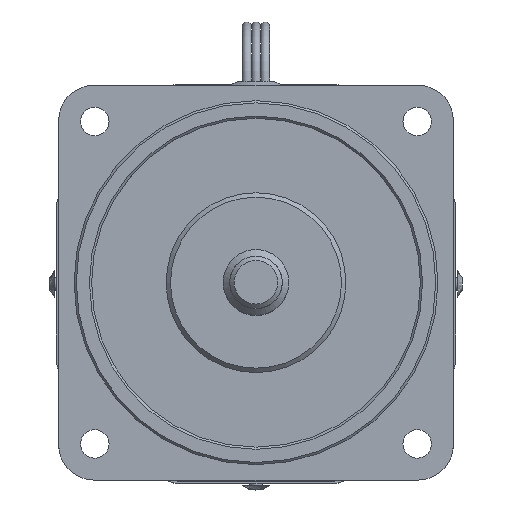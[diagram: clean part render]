
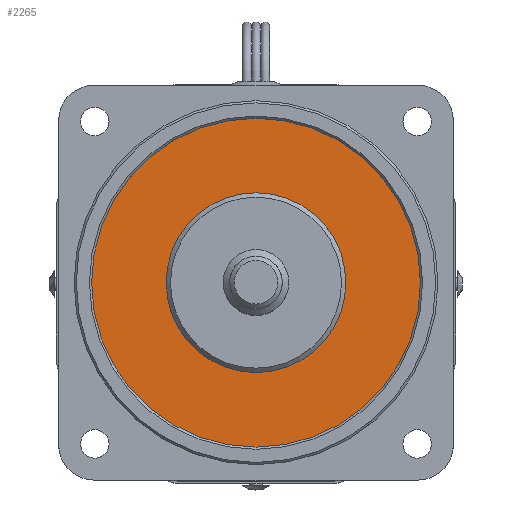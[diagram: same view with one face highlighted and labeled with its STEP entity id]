
A CAD part, top view. The second image highlights one B-rep face of the part: STEP entity #2265.
In plain terms, the highlighted planar face has unit normal (0, 0, 1).
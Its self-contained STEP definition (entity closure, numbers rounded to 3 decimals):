
#1495 = EDGE_CURVE ( 'NONE', #8811, #8811, #5353, .T. ) ;
#1499 = EDGE_CURVE ( 'NONE', #8815, #8815, #5360, .T. ) ;
#2265 = ADVANCED_FACE ( 'NONE', ( #8604, #8607 ), #7776, .T. ) ;
#2277 = EDGE_LOOP ( 'NONE', ( #2289 ) ) ;
#2278 = EDGE_LOOP ( 'NONE', ( #2288 ) ) ;
#2288 = ORIENTED_EDGE ( 'NONE', *, *, #1499, .T. ) ;
#2289 = ORIENTED_EDGE ( 'NONE', *, *, #1495, .F. ) ;
#5353 = CIRCLE ( 'NONE', #5554, 20.5 ) ;
#5360 = CIRCLE ( 'NONE', #5558, 37.5 ) ;
#5554 = AXIS2_PLACEMENT_3D ( 'NONE', #6092, #6093, #6094 ) ;
#5558 = AXIS2_PLACEMENT_3D ( 'NONE', #6104, #6105, #6106 ) ;
#5698 = AXIS2_PLACEMENT_3D ( 'NONE', #7777, #7782, #7783 ) ;
#6092 = CARTESIAN_POINT ( 'NONE',  ( 0., 0., -2. ) ) ;
#6093 = DIRECTION ( 'NONE',  ( 0., 0., 1. ) ) ;
#6094 = DIRECTION ( 'NONE',  ( 1., 0., 0. ) ) ;
#6104 = CARTESIAN_POINT ( 'NONE',  ( 0., 0., -2. ) ) ;
#6105 = DIRECTION ( 'NONE',  ( 0., 0., 1. ) ) ;
#6106 = DIRECTION ( 'NONE',  ( 1., 0., 0. ) ) ;
#7776 = PLANE ( 'NONE',  #5698 ) ;
#7777 = CARTESIAN_POINT ( 'NONE',  ( 0., 0., -2. ) ) ;
#7782 = DIRECTION ( 'NONE',  ( 0., 0., 1. ) ) ;
#7783 = DIRECTION ( 'NONE',  ( 1., 0., 0. ) ) ;
#8445 = CARTESIAN_POINT ( 'NONE',  ( 20.5, 0., -2. ) ) ;
#8449 = CARTESIAN_POINT ( 'NONE',  ( 37.5, 0., -2. ) ) ;
#8604 = FACE_OUTER_BOUND ( 'NONE', #2278, .T. ) ;
#8607 = FACE_BOUND ( 'NONE', #2277, .T. ) ;
#8811 = VERTEX_POINT ( 'NONE', #8445 ) ;
#8815 = VERTEX_POINT ( 'NONE', #8449 ) ;
